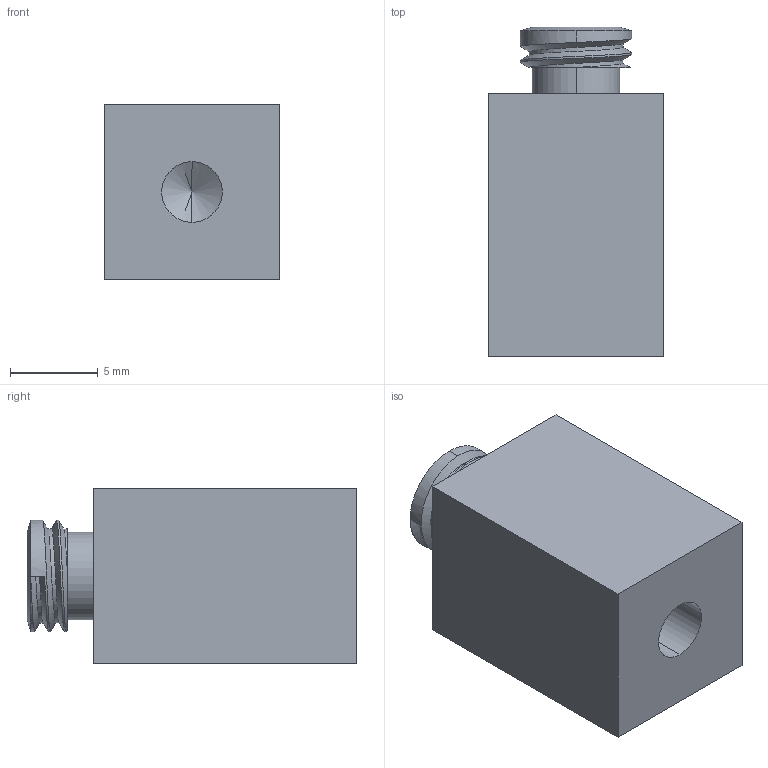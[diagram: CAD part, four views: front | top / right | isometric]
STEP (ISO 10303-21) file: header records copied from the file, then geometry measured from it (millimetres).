
FILE_DESCRIPTION (( 'STEP AP203' ), '1' );
FILE_NAME ('cuvette_bottom2.STEP', '2023-03-24T22:57:05', ( '' ), ( '' ), 'SwSTEP 2.0', 'SolidWorks 2021', '' );
FILE_SCHEMA (( 'CONFIG_CONTROL_DESIGN' ));
Length unit declared in the file: millimetre
Products named in the file (1): cuvette_bottom2
Bounding box: 10 x 18.8 x 10 mm (x, y, z)
Volume: 1537.2 mm3; surface area: 963.3 mm2
Topology: 1 solids, 1 shells, 26 faces, 61 edges, 38 vertices
Faces by surface type: cylinder 10, plane 9, cone 4, bspline 3
Entity records: 1175 total; most frequent: CARTESIAN_POINT 558, ORIENTED_EDGE 118, DIRECTION 103, EDGE_CURVE 59, AXIS2_PLACEMENT_3D 39, VERTEX_POINT 38, EDGE_LOOP 29, FACE_OUTER_BOUND 26
